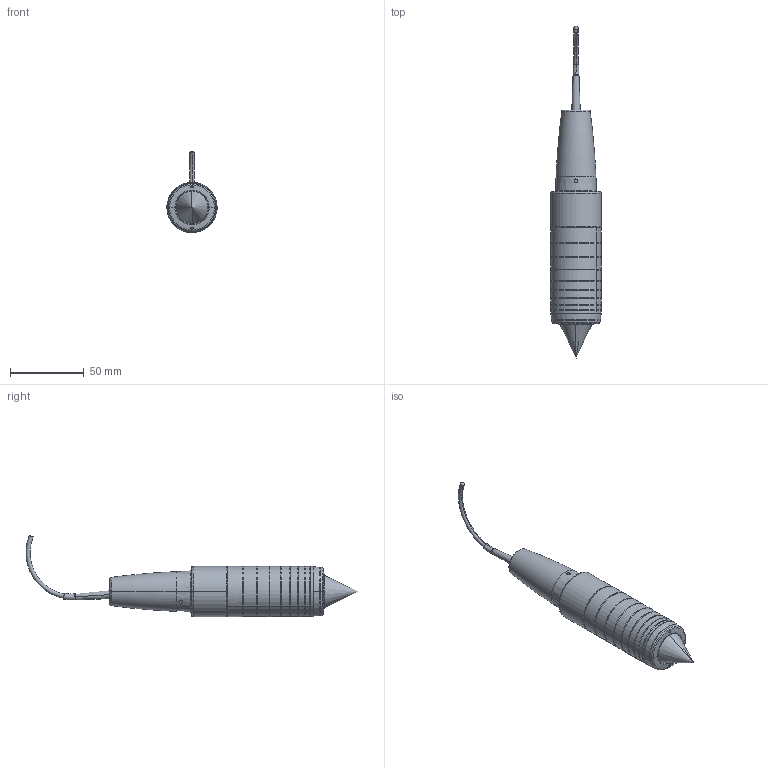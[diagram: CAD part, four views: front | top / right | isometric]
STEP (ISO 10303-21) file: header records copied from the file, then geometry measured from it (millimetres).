
FILE_DESCRIPTION (( 'STEP AP214' ), '1' );
FILE_NAME ('2602018 IFS2405-3 Sensor vereinfacht.STEP', '2013-01-24T15:55:50', ( 'MICRO-EPSILON Optronic GmbH' ), ( 'MICRO-EPSILON Optronic GmbH' ), 'SwSTEP 2.0', 'SolidWorks 2012', '' );
FILE_SCHEMA (( 'AUTOMOTIVE_DESIGN' ));
Length unit declared in the file: millimetre
Products named in the file (1): 2602018 IFS2405-3 Sensor vereinfacht
Bounding box: 34 x 224.88 x 55.01 mm (x, y, z)
Volume: 102314.7 mm3; surface area: 21107.8 mm2
Topology: 2 solids, 4 shells, 154 faces, 322 edges, 182 vertices
Faces by surface type: torus 62, cylinder 57, cone 18, plane 15, bspline 2
Entity records: 6291 total; most frequent: CARTESIAN_POINT 1338, DIRECTION 806, ORIENTED_EDGE 628, AXIS2_PLACEMENT_3D 367, EDGE_CURVE 314, CIRCLE 214, VERTEX_POINT 182, EDGE_LOOP 170
